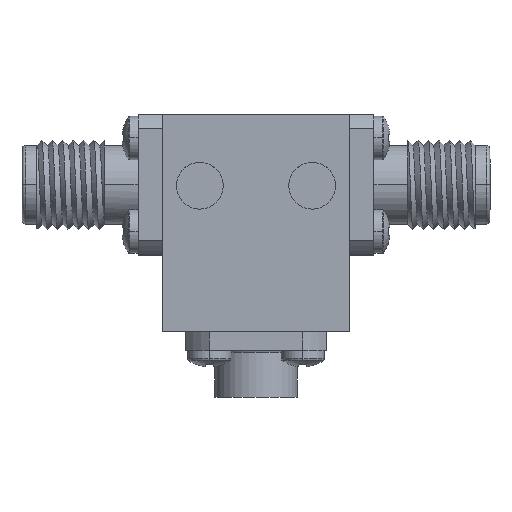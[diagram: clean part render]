
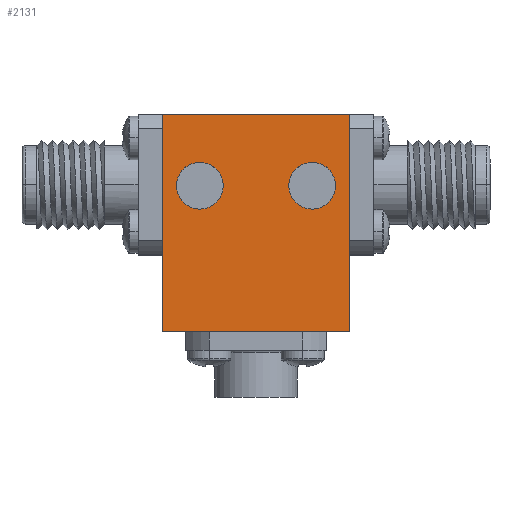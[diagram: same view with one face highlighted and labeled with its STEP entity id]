
A CAD part, top view. The second image highlights one B-rep face of the part: STEP entity #2131.
In plain terms, the highlighted planar face has unit normal (0, 0, 1) as drawn and (0, 0, -1) by its records, which use the part's own axes.
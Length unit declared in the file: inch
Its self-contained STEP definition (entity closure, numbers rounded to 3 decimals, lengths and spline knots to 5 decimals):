
#25 = LINE ( 'NONE', #800, #2068 ) ;
#76 = LINE ( 'NONE', #3055, #887 ) ;
#87 = CARTESIAN_POINT ( 'NONE',  ( -0.25, -0.29, -0.19 ) ) ;
#103 = CARTESIAN_POINT ( 'NONE',  ( 0.0875, 0.1, -0.19 ) ) ;
#253 = DIRECTION ( 'NONE',  ( 1., 0., 0. ) ) ;
#368 = EDGE_CURVE ( 'NONE', #3109, #1888, #1343, .T. ) ;
#402 = EDGE_LOOP ( 'NONE', ( #1068, #697 ) ) ;
#468 = VERTEX_POINT ( 'NONE', #4594 ) ;
#586 = CARTESIAN_POINT ( 'NONE',  ( 0.2125, 0.1, -0.19 ) ) ;
#589 = AXIS2_PLACEMENT_3D ( 'NONE', #3552, #1372, #253 ) ;
#603 = DIRECTION ( 'NONE',  ( 1., 0., 0. ) ) ;
#653 = CIRCLE ( 'NONE', #3071, 0.0625 ) ;
#697 = ORIENTED_EDGE ( 'NONE', *, *, #368, .T. ) ;
#709 = CARTESIAN_POINT ( 'NONE',  ( -0.25, 0.29, -0.19 ) ) ;
#713 = CARTESIAN_POINT ( 'NONE',  ( 0., 0., -0.19 ) ) ;
#800 = CARTESIAN_POINT ( 'NONE',  ( -0.25, 0.29, -0.19 ) ) ;
#832 = CARTESIAN_POINT ( 'NONE',  ( -0.15, 0.1, -0.19 ) ) ;
#867 = DIRECTION ( 'NONE',  ( 1., 0., 0. ) ) ;
#887 = VECTOR ( 'NONE', #3724, 39.37008 ) ;
#967 = EDGE_LOOP ( 'NONE', ( #4665, #4317 ) ) ;
#1068 = ORIENTED_EDGE ( 'NONE', *, *, #2567, .T. ) ;
#1114 = VECTOR ( 'NONE', #1773, 39.37008 ) ;
#1187 = DIRECTION ( 'NONE',  ( 0., 0., 1. ) ) ;
#1216 = DIRECTION ( 'NONE',  ( 0., 0., 1. ) ) ;
#1321 = CARTESIAN_POINT ( 'NONE',  ( -0.15, 0.1, -0.19 ) ) ;
#1333 = VERTEX_POINT ( 'NONE', #1949 ) ;
#1343 = CIRCLE ( 'NONE', #589, 0.0625 ) ;
#1372 = DIRECTION ( 'NONE',  ( 0., 0., 1. ) ) ;
#1495 = AXIS2_PLACEMENT_3D ( 'NONE', #1321, #2420, #603 ) ;
#1566 = DIRECTION ( 'NONE',  ( 0., -1., 0. ) ) ;
#1591 = ORIENTED_EDGE ( 'NONE', *, *, #2034, .F. ) ;
#1598 = DIRECTION ( 'NONE',  ( 1., 0., 0. ) ) ;
#1638 = CIRCLE ( 'NONE', #1495, 0.0625 ) ;
#1678 = LINE ( 'NONE', #3199, #1114 ) ;
#1726 = FACE_BOUND ( 'NONE', #402, .T. ) ;
#1759 = ORIENTED_EDGE ( 'NONE', *, *, #3849, .F. ) ;
#1773 = DIRECTION ( 'NONE',  ( 0., 1., 0. ) ) ;
#1778 = LINE ( 'NONE', #4551, #2731 ) ;
#1828 = EDGE_CURVE ( 'NONE', #1333, #1922, #1638, .T. ) ;
#1888 = VERTEX_POINT ( 'NONE', #586 ) ;
#1922 = VERTEX_POINT ( 'NONE', #4298 ) ;
#1949 = CARTESIAN_POINT ( 'NONE',  ( -0.0875, 0.1, -0.19 ) ) ;
#2009 = CARTESIAN_POINT ( 'NONE',  ( 0.25, -0.29, -0.19 ) ) ;
#2028 = DIRECTION ( 'NONE',  ( -1., 0., 0. ) ) ;
#2034 = EDGE_CURVE ( 'NONE', #2426, #468, #1678, .T. ) ;
#2068 = VECTOR ( 'NONE', #1566, 39.37008 ) ;
#2131 = ADVANCED_FACE ( 'NONE', ( #1726, #4527, #2848 ), #4069, .F. ) ;
#2296 = EDGE_CURVE ( 'NONE', #3506, #3085, #25, .T. ) ;
#2420 = DIRECTION ( 'NONE',  ( 0., 0., 1. ) ) ;
#2426 = VERTEX_POINT ( 'NONE', #2009 ) ;
#2567 = EDGE_CURVE ( 'NONE', #1888, #3109, #653, .T. ) ;
#2731 = VECTOR ( 'NONE', #2028, 39.37008 ) ;
#2764 = DIRECTION ( 'NONE',  ( 1., 0., 0. ) ) ;
#2800 = ORIENTED_EDGE ( 'NONE', *, *, #2296, .F. ) ;
#2848 = FACE_OUTER_BOUND ( 'NONE', #4082, .T. ) ;
#3044 = AXIS2_PLACEMENT_3D ( 'NONE', #713, #1216, #1598 ) ;
#3055 = CARTESIAN_POINT ( 'NONE',  ( -0.25, -0.29, -0.19 ) ) ;
#3071 = AXIS2_PLACEMENT_3D ( 'NONE', #3482, #3164, #2764 ) ;
#3085 = VERTEX_POINT ( 'NONE', #87 ) ;
#3109 = VERTEX_POINT ( 'NONE', #103 ) ;
#3164 = DIRECTION ( 'NONE',  ( 0., 0., 1. ) ) ;
#3199 = CARTESIAN_POINT ( 'NONE',  ( 0.25, 0.29, -0.19 ) ) ;
#3412 = CIRCLE ( 'NONE', #4372, 0.0625 ) ;
#3482 = CARTESIAN_POINT ( 'NONE',  ( 0.15, 0.1, -0.19 ) ) ;
#3506 = VERTEX_POINT ( 'NONE', #709 ) ;
#3552 = CARTESIAN_POINT ( 'NONE',  ( 0.15, 0.1, -0.19 ) ) ;
#3724 = DIRECTION ( 'NONE',  ( 1., 0., 0. ) ) ;
#3795 = EDGE_CURVE ( 'NONE', #3085, #2426, #76, .T. ) ;
#3849 = EDGE_CURVE ( 'NONE', #468, #3506, #1778, .T. ) ;
#4069 = PLANE ( 'NONE',  #3044 ) ;
#4082 = EDGE_LOOP ( 'NONE', ( #1591, #4537, #2800, #1759 ) ) ;
#4298 = CARTESIAN_POINT ( 'NONE',  ( -0.2125, 0.1, -0.19 ) ) ;
#4317 = ORIENTED_EDGE ( 'NONE', *, *, #4321, .T. ) ;
#4321 = EDGE_CURVE ( 'NONE', #1922, #1333, #3412, .T. ) ;
#4372 = AXIS2_PLACEMENT_3D ( 'NONE', #832, #1187, #867 ) ;
#4527 = FACE_BOUND ( 'NONE', #967, .T. ) ;
#4537 = ORIENTED_EDGE ( 'NONE', *, *, #3795, .F. ) ;
#4551 = CARTESIAN_POINT ( 'NONE',  ( -0.25, 0.29, -0.19 ) ) ;
#4594 = CARTESIAN_POINT ( 'NONE',  ( 0.25, 0.29, -0.19 ) ) ;
#4665 = ORIENTED_EDGE ( 'NONE', *, *, #1828, .T. ) ;
